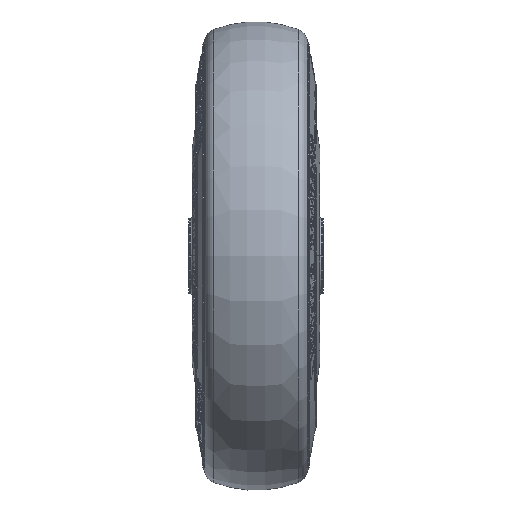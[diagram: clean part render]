
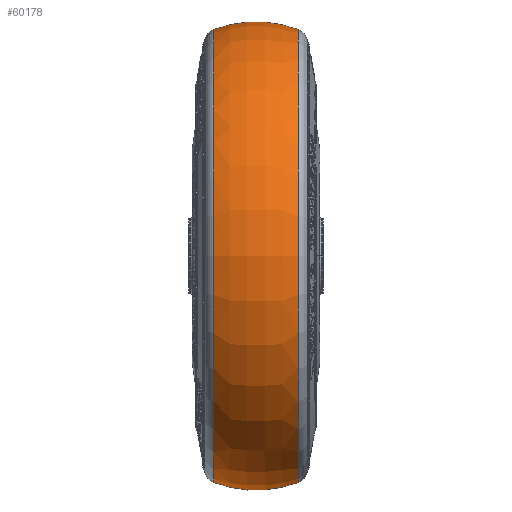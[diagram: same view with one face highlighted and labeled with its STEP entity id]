
A CAD part, top view. The second image highlights one B-rep face of the part: STEP entity #60178.
In plain terms, the highlighted toroidal (fillet/blend) face has major radius 31.25 mm and minor radius 31.25 mm.
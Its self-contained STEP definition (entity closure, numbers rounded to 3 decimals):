
#6139 = EDGE_CURVE ( 'NONE', #100437, #8000, #50580, .T. ) ;
#8000 = VERTEX_POINT ( 'NONE', #30015 ) ;
#10448 = EDGE_CURVE ( 'NONE', #142322, #8000, #129102, .T. ) ;
#14394 = DIRECTION ( 'NONE',  ( -0.359, 0., 0.933 ) ) ;
#20596 = DIRECTION ( 'NONE',  ( 0., 0., -1. ) ) ;
#20784 = CARTESIAN_POINT ( 'NONE',  ( 11.228, 0., -60.413 ) ) ;
#30015 = CARTESIAN_POINT ( 'NONE',  ( 11.228, 0., 60.413 ) ) ;
#32792 = AXIS2_PLACEMENT_3D ( 'NONE', #142288, #123573, #14394 ) ;
#33366 = VERTEX_POINT ( 'NONE', #154497 ) ;
#45247 = CARTESIAN_POINT ( 'NONE',  ( 11.228, 0., 0. ) ) ;
#50580 = CIRCLE ( 'NONE', #101418, 60.413 ) ;
#59175 = ORIENTED_EDGE ( 'NONE', *, *, #119064, .T. ) ;
#60178 = ADVANCED_FACE ( 'NONE', ( #138608 ), #170870, .T. ) ;
#63061 = AXIS2_PLACEMENT_3D ( 'NONE', #177541, #178218, #20596 ) ;
#66106 = DIRECTION ( 'NONE',  ( -0.359, 0., -0.933 ) ) ;
#76140 = DIRECTION ( 'NONE',  ( 0., 0., -1. ) ) ;
#80988 = CIRCLE ( 'NONE', #90081, 31.25 ) ;
#86288 = EDGE_CURVE ( 'NONE', #33366, #100437, #80988, .T. ) ;
#90081 = AXIS2_PLACEMENT_3D ( 'NONE', #175851, #127295, #66106 ) ;
#90680 = AXIS2_PLACEMENT_3D ( 'NONE', #171956, #105385, #76140 ) ;
#91113 = DIRECTION ( 'NONE',  ( 0., 0., -1. ) ) ;
#94217 = ORIENTED_EDGE ( 'NONE', *, *, #6139, .F. ) ;
#100437 = VERTEX_POINT ( 'NONE', #20784 ) ;
#101418 = AXIS2_PLACEMENT_3D ( 'NONE', #45247, #156393, #91113 ) ;
#105385 = DIRECTION ( 'NONE',  ( 1., 0., 0. ) ) ;
#119064 = EDGE_CURVE ( 'NONE', #33366, #142322, #153417, .T. ) ;
#123573 = DIRECTION ( 'NONE',  ( 0., 1., 0. ) ) ;
#127295 = DIRECTION ( 'NONE',  ( 0., -1., 0. ) ) ;
#129102 = CIRCLE ( 'NONE', #32792, 31.25 ) ;
#132921 = ORIENTED_EDGE ( 'NONE', *, *, #86288, .F. ) ;
#135846 = EDGE_LOOP ( 'NONE', ( #59175, #144765, #94217, #132921 ) ) ;
#136367 = CARTESIAN_POINT ( 'NONE',  ( -11.228, 0., 60.413 ) ) ;
#138608 = FACE_OUTER_BOUND ( 'NONE', #135846, .T. ) ;
#142288 = CARTESIAN_POINT ( 'NONE',  ( 0., 0., 31.25 ) ) ;
#142322 = VERTEX_POINT ( 'NONE', #136367 ) ;
#144765 = ORIENTED_EDGE ( 'NONE', *, *, #10448, .T. ) ;
#153417 = CIRCLE ( 'NONE', #90680, 60.413 ) ;
#154497 = CARTESIAN_POINT ( 'NONE',  ( -11.228, 0., -60.413 ) ) ;
#156393 = DIRECTION ( 'NONE',  ( 1., 0., 0. ) ) ;
#170870 = TOROIDAL_SURFACE ( 'NONE', #63061, 31.25, 31.25 ) ;
#171956 = CARTESIAN_POINT ( 'NONE',  ( -11.228, 0., 0. ) ) ;
#175851 = CARTESIAN_POINT ( 'NONE',  ( 0., 0., -31.25 ) ) ;
#177541 = CARTESIAN_POINT ( 'NONE',  ( 0., 0., 0. ) ) ;
#178218 = DIRECTION ( 'NONE',  ( 1., 0., 0. ) ) ;
